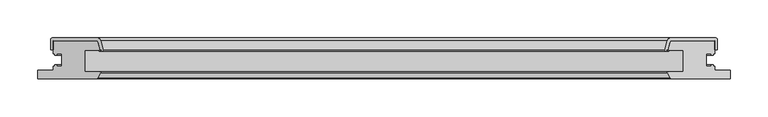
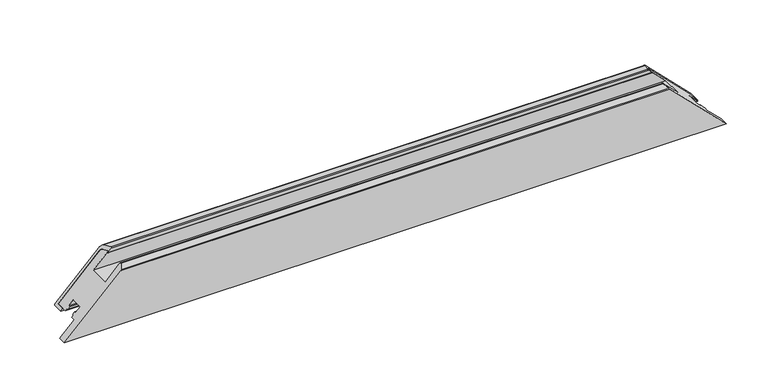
"""IFC4 building model written with IfcOpenShell, lengths in millimetres: proxy geometry, Weiku - Montante - Folha 02.2.01.017 : Weiku - Montante - Folha 02.2.01.017."""

from ifc_helpers import new_model, si_unit, frame, origin, place, context, project, spatial, polyline, ellipse_curve, source, transform, mapped, element, save
from ifc_brep_helpers import plane_surface, cylinder_surface, revolved_surface, advanced_brep


def generic_models_6003d0e4(model_context):
    return source(origin(), model_context, "Body", "AdvancedBrep", [
        advanced_brep(
        [(436.5, 50.0, 20.0), (379.4997332, 50.0, 77.0002668), (-379.4997332, 50.0, 77.0002668), (-436.5, 50.0, 20.0), (376.6019557, 47.7764571, 79.8980443), (-376.6019557, 47.7764571, 79.8980443), (374.0170371, 38.1294095, 82.4829629), (-374.0170371, 38.1294095, 82.4829629), (374.5, 37.5, 82.0), (-374.5, 37.5, 82.0), (375.3560102, 37.5, 81.1439898), (-375.3560102, 37.5, 81.1439898), (375.3560102, 36.5, 81.1439898), (-375.3560102, 36.5, 81.1439898), (370.7425588, 36.5, 85.7574412), (-370.7425588, 36.5, 85.7574412), (369.7766329, 37.758819, 86.7233671), (-369.7766329, 37.758819, 86.7233671), (373.1354501, 50.2940952, 83.3645499), (-373.1354501, 50.2940952, 83.3645499), (377.9650792, 54.0, 78.5349208), (-377.9650792, 54.0, 78.5349208), (437.5, 54.0, 19.0), (-437.5, 54.0, 19.0), (439.5, 52.0, 17.0), (-439.5, 52.0, 17.0), (439.5, 38.5, 17.0), (-439.5, 38.5, 17.0), (436.5, 38.5, 20.0), (-436.5, 38.5, 20.0)],
        [
            (0, 1),
            (1, 2),
            (2, 3),
            (3, 0),
            (1, 4, ellipse_curve(frame((379.4997332, 47.0, 77.0002668), z_axis=(0.707106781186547, 0.0, 0.7071067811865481), x_axis=(0.7071067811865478, 0.0, -0.707106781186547)), 4.2426407, 3.0)),
            (4, 5),
            (5, 2, ellipse_curve(frame((-379.4997332, 47.0, 77.0002668), z_axis=(-0.7071067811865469, 0.0, 0.7071067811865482), x_axis=(0.707106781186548, 0.0, 0.7071067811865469)), 4.2426407, 3.0)),
            (4, 6),
            (6, 7),
            (7, 5),
            (6, 8, ellipse_curve(frame((374.5, 38.0, 82.0), z_axis=(0.707106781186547, 0.0, 0.7071067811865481), x_axis=(0.7071067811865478, 0.0, -0.707106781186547)), 0.7071068, 0.5)),
            (8, 9),
            (9, 7, ellipse_curve(frame((-374.5, 38.0, 82.0), z_axis=(-0.7071067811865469, 0.0, 0.7071067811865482), x_axis=(0.707106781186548, 0.0, 0.7071067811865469)), 0.7071068, 0.5)),
            (8, 10),
            (10, 11),
            (11, 9),
            (10, 12, ellipse_curve(frame((375.3560102, 37.0, 81.1439898), z_axis=(-0.707106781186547, 0.0, -0.7071067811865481), x_axis=(-0.7071067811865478, 0.0, 0.707106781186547)), 0.7071068, 0.5)),
            (12, 13),
            (13, 11, ellipse_curve(frame((-375.3560102, 37.0, 81.1439898), z_axis=(0.7071067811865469, 0.0, -0.7071067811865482), x_axis=(-0.707106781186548, 0.0, -0.7071067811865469)), 0.7071068, 0.5)),
            (12, 14),
            (14, 15),
            (15, 13),
            (14, 16, ellipse_curve(frame((370.7425588, 37.5, 85.7574412), z_axis=(-0.707106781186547, 0.0, -0.7071067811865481), x_axis=(-0.7071067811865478, 0.0, 0.707106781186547)), 1.4142136, 1.0)),
            (16, 17),
            (17, 15, ellipse_curve(frame((-370.7425588, 37.5, 85.7574412), z_axis=(0.7071067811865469, 0.0, -0.7071067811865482), x_axis=(-0.707106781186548, 0.0, -0.7071067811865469)), 1.4142136, 1.0)),
            (16, 18),
            (18, 19),
            (19, 17),
            (18, 20, ellipse_curve(frame((377.9650792, 49.0, 78.5349208), z_axis=(-0.707106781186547, 0.0, -0.7071067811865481), x_axis=(-0.7071067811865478, 0.0, 0.707106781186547)), 7.0710678, 5.0)),
            (20, 21),
            (21, 19, ellipse_curve(frame((-377.9650792, 49.0, 78.5349208), z_axis=(0.7071067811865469, 0.0, -0.7071067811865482), x_axis=(-0.707106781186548, 0.0, -0.7071067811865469)), 7.0710678, 5.0)),
            (20, 22),
            (22, 23),
            (23, 21),
            (22, 24, ellipse_curve(frame((437.5, 52.0, 19.0), z_axis=(-0.707106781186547, 0.0, -0.7071067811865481), x_axis=(-0.7071067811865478, 0.0, 0.707106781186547)), 2.8284271, 2.0)),
            (24, 25),
            (25, 23, ellipse_curve(frame((-437.5, 52.0, 19.0), z_axis=(0.7071067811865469, 0.0, -0.7071067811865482), x_axis=(-0.707106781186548, 0.0, -0.7071067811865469)), 2.8284271, 2.0)),
            (24, 26),
            (26, 27),
            (27, 25),
            (26, 28),
            (28, 29),
            (29, 27),
            (28, 0),
            (3, 29),
        ],
        [
            plane_surface(frame((-476.5, 50.0, 20.0), z_axis=(0.0, -1.0, 0.0), x_axis=(1.0, 0.0, 0.0))),
            revolved_surface(polyline([(382.49973320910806, 50.0, 77.0002668), (-382.49973320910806, 50.0, 77.0002668)]), (-476.5, 47.0, 77.0002668), (1.0, 0.0, 0.0)),
            plane_surface(frame((-476.5, 47.7764571, 79.8980443), z_axis=(0.0, -0.2588190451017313, -0.9659258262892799), x_axis=(1.0, 0.0, 0.0))),
            revolved_surface(polyline([(375.00000001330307, 38.5, 82.0), (-375.0000000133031, 38.5, 82.0)]), (-476.5, 38.0, 82.0), (1.0, 0.0, 0.0)),
            plane_surface(frame((-476.5, 37.5, 82.0), z_axis=(0.0, 1.0, 0.0), x_axis=(1.0, 0.0, 0.0))),
            cylinder_surface(frame((-476.5, 37.0, 81.1439898), z_axis=(-1.0, 0.0, 0.0), x_axis=(0.0, 1.0, 0.0)), 0.5),
            plane_surface(frame((-476.5, 36.5, 81.1439898), z_axis=(0.0, -1.0, 0.0), x_axis=(1.0, 0.0, 0.0))),
            cylinder_surface(frame((-476.5, 37.5, 85.7574412), z_axis=(-1.0, 0.0, 0.0), x_axis=(0.0, 1.0, 0.0)), 1.0),
            plane_surface(frame((-476.5, 37.758819, 86.7233671), z_axis=(0.0, 0.25881904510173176, 0.9659258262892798), x_axis=(1.0, 0.0, 0.0))),
            cylinder_surface(frame((-476.5, 49.0, 78.5349208), z_axis=(-1.0, 0.0, 0.0), x_axis=(0.0, 1.0, 0.0)), 5.0),
            plane_surface(frame((-476.5, 54.0, 78.5349208), z_axis=(0.0, 1.0, 0.0), x_axis=(1.0, 0.0, 0.0))),
            cylinder_surface(frame((-476.5, 52.0, 19.0), z_axis=(-1.0, 0.0, 0.0), x_axis=(0.0, 1.0, 0.0)), 2.0),
            plane_surface(frame((-476.5, 52.0, 17.0), z_axis=(0.0, 0.0, -1.0), x_axis=(1.0, 0.0, 0.0))),
            plane_surface(frame((-476.5, 38.5, 17.0), z_axis=(0.0, -1.0, 0.0), x_axis=(1.0, 0.0, 0.0))),
            plane_surface(frame((-476.5, 38.5, 20.0), z_axis=(0.0, 0.0, 1.0), x_axis=(1.0, 0.0, 0.0))),
            plane_surface(frame((366.5, 0.0, 90.0), z_axis=(0.707106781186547, 0.0, 0.7071067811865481), x_axis=(0.0, 1.0, 0.0))),
            plane_surface(frame((-484.7842712, 0.0, -28.2842712), z_axis=(-0.7071067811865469, 0.0, 0.7071067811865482), x_axis=(0.0, 1.0, 0.0))),
        ],
        [
            (0, [[1, 2, 3, 4]]),
            (1, [[5, 6, 7, -2]]),
            (2, [[8, 9, 10, -6]]),
            (3, [[11, 12, 13, -9]]),
            (4, [[14, 15, 16, -12]]),
            (5, [[17, 18, 19, -15]]),
            (6, [[20, 21, 22, -18]]),
            (7, [[23, 24, 25, -21]]),
            (8, [[26, 27, 28, -24]]),
            (9, [[29, 30, 31, -27]]),
            (10, [[32, 33, 34, -30]]),
            (11, [[35, 36, 37, -33]]),
            (12, [[38, 39, 40, -36]]),
            (13, [[41, 42, 43, -39]]),
            (14, [[44, -4, 45, -42]]),
            (15, [[-1, -44, -41, -38, -35, -32, -29, -26, -23, -20, -17, -14, -11, -8, -5]]),
            (16, [[-3, -7, -10, -13, -16, -19, -22, -25, -28, -31, -34, -37, -40, -43, -45]]),
        ],
    ),
        advanced_brep(
        [(-436.5, 50.0, 20.0), (-379.4997332, 50.0, 77.0002668), (379.4997332, 50.0, 77.0002668), (436.5, 50.0, 20.0), (-456.5, 0.0, 0.0), (456.5, 0.0, 0.0), (378.4872264, 0.0, 78.0127736), (-378.4872264, 0.0, 78.0127736), (-436.5, 33.1, 20.0), (-434.3, 33.1, 22.2), (-434.3, 31.1, 22.2), (-431.5, 31.1, 25.0), (-431.5, 33.1, 25.0), (-425.0, 33.1, 31.5), (-425.0, 16.9, 31.5), (-431.5, 16.9, 25.0), (-431.5, 18.9, 25.0), (-434.3, 18.9, 22.2), (-434.3, 16.9, 22.2), (-436.5, 16.9, 20.0), (-436.5, 11.5, 20.0), (-456.5, 11.5, 0.0), (-377.5932657, 0.5518546, 78.9067343), (-374.0512796, 7.617411, 82.4487204), (-375.2134285, 9.5, 81.2865715), (-395.0, 9.5, 61.5), (-395.0, 37.5, 61.5), (-374.5, 37.5, 82.0), (-374.0170371, 38.1294095, 82.4829629), (-376.6019557, 47.7764571, 79.8980443), (376.6019557, 47.7764571, 79.8980443), (374.0170371, 38.1294095, 82.4829629), (374.5, 37.5, 82.0), (395.0, 37.5, 61.5), (395.0, 9.5, 61.5), (375.2134285, 9.5, 81.2865715), (374.0512796, 7.617411, 82.4487204), (377.5932657, 0.5518546, 78.9067343), (456.5, 11.5, 0.0), (436.5, 11.5, 20.0), (436.5, 16.9, 20.0), (434.3, 16.9, 22.2), (434.3, 18.9, 22.2), (431.5, 18.9, 25.0), (431.5, 16.9, 25.0), (425.0, 16.9, 31.5), (425.0, 33.1, 31.5), (431.5, 33.1, 25.0), (431.5, 31.1, 25.0), (434.3, 31.1, 22.2), (434.3, 33.1, 22.2), (436.5, 33.1, 20.0)],
        [
            (0, 1),
            (1, 2),
            (2, 3),
            (3, 0),
            (4, 5),
            (5, 6),
            (6, 7),
            (7, 4),
            (0, 8),
            (8, 9),
            (9, 10),
            (10, 11),
            (11, 12),
            (12, 13),
            (13, 14),
            (14, 15),
            (15, 16),
            (16, 17),
            (17, 18),
            (18, 19),
            (19, 20),
            (20, 21),
            (21, 4),
            (7, 22, ellipse_curve(frame((-378.4872264, 1.0, 78.0127736), z_axis=(-0.7071067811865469, 0.0, 0.7071067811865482), x_axis=(-0.707106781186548, 0.0, -0.7071067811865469)), 1.4142136, 1.0)),
            (22, 23),
            (23, 24, ellipse_curve(frame((-375.2134285, 8.2, 81.2865715), z_axis=(-0.7071067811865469, 0.0, 0.7071067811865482), x_axis=(-0.707106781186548, 0.0, -0.7071067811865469)), 1.8384776, 1.3)),
            (24, 25),
            (25, 26),
            (26, 27),
            (27, 28, ellipse_curve(frame((-374.5, 38.0, 82.0), z_axis=(-0.7071067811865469, 0.0, 0.7071067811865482), x_axis=(-0.707106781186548, 0.0, -0.7071067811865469)), 0.7071068, 0.5)),
            (28, 29),
            (29, 1, ellipse_curve(frame((-379.4997332, 47.0, 77.0002668), z_axis=(-0.7071067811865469, 0.0, 0.7071067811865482), x_axis=(-0.707106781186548, 0.0, -0.7071067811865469)), 4.2426407, 3.0)),
            (2, 30, ellipse_curve(frame((379.4997332, 47.0, 77.0002668), z_axis=(0.707106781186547, 0.0, 0.7071067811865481), x_axis=(-0.7071067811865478, 0.0, 0.707106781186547)), 4.2426407, 3.0)),
            (30, 31),
            (31, 32, ellipse_curve(frame((374.5, 38.0, 82.0), z_axis=(0.707106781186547, 0.0, 0.7071067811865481), x_axis=(-0.7071067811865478, 0.0, 0.707106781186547)), 0.7071068, 0.5)),
            (32, 33),
            (33, 34),
            (34, 35),
            (35, 36, ellipse_curve(frame((375.2134285, 8.2, 81.2865715), z_axis=(0.707106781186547, 0.0, 0.7071067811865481), x_axis=(-0.7071067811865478, 0.0, 0.707106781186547)), 1.8384776, 1.3)),
            (36, 37),
            (37, 6, ellipse_curve(frame((378.4872264, 1.0, 78.0127736), z_axis=(0.707106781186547, 0.0, 0.7071067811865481), x_axis=(-0.7071067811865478, 0.0, 0.707106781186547)), 1.4142136, 1.0)),
            (5, 38),
            (38, 39),
            (39, 40),
            (40, 41),
            (41, 42),
            (42, 43),
            (43, 44),
            (44, 45),
            (45, 46),
            (46, 47),
            (47, 48),
            (48, 49),
            (49, 50),
            (50, 51),
            (51, 3),
            (37, 22),
            (36, 23),
            (35, 24),
            (34, 25),
            (33, 26),
            (32, 27),
            (31, 28),
            (30, 29),
            (51, 8),
            (50, 9),
            (49, 10),
            (48, 11),
            (47, 12),
            (46, 13),
            (45, 14),
            (44, 15),
            (43, 16),
            (42, 17),
            (41, 18),
            (40, 19),
            (39, 20),
            (38, 21),
        ],
        [
            plane_surface(frame((-456.5, 50.0, 77.0002668), z_axis=(0.0, 1.0, 0.0), x_axis=(1.0, 0.0, 0.0))),
            plane_surface(frame((-456.5, 0.0, 0.0), z_axis=(0.0, -1.0, 0.0), x_axis=(1.0, 0.0, 0.0))),
            plane_surface(frame((-484.7842712, 0.0, -28.2842712), z_axis=(-0.7071067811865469, 0.0, 0.7071067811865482), x_axis=(0.0, 1.0, 0.0))),
            plane_surface(frame((366.5, 0.0, 90.0), z_axis=(0.707106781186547, 0.0, 0.7071067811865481), x_axis=(0.0, 1.0, 0.0))),
            cylinder_surface(frame((-456.5, 1.0, 78.0127736), z_axis=(-1.0, 0.0, 0.0), x_axis=(0.0, 1.0, 0.0)), 1.0),
            plane_surface(frame((-456.5, 0.5518546, 78.9067343), z_axis=(0.0, -0.4481453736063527, 0.8939606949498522), x_axis=(1.0, 0.0, 0.0))),
            cylinder_surface(frame((-456.5, 8.2, 81.2865715), z_axis=(-1.0, 0.0, 0.0), x_axis=(0.0, 1.0, 0.0)), 1.3),
            plane_surface(frame((-456.5, 9.5, 81.2865715), z_axis=(0.0, 1.0, 0.0), x_axis=(1.0, 0.0, 0.0))),
            plane_surface(frame((-456.5, 9.5, 61.5), z_axis=(0.0, 0.0, 1.0), x_axis=(1.0, 0.0, 0.0))),
            plane_surface(frame((-456.5, 37.5, 61.5), z_axis=(0.0, -1.0, 0.0), x_axis=(1.0, 0.0, 0.0))),
            cylinder_surface(frame((-456.5, 38.0, 82.0), z_axis=(-1.0, 0.0, 0.0), x_axis=(0.0, 1.0, 0.0)), 0.5),
            plane_surface(frame((-456.5, 38.1294095, 82.4829629), z_axis=(0.0, 0.2588190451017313, 0.9659258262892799), x_axis=(1.0, 0.0, 0.0))),
            cylinder_surface(frame((-456.5, 47.0, 77.0002668), z_axis=(-1.0, 0.0, 0.0), x_axis=(0.0, 1.0, 0.0)), 3.0),
            plane_surface(frame((-456.5, 50.0, 20.0), z_axis=(0.0, 0.0, -1.0), x_axis=(1.0, 0.0, 0.0))),
            plane_surface(frame((-456.5, 33.1, 20.0), z_axis=(0.0, -1.0, 0.0), x_axis=(1.0, 0.0, 0.0))),
            plane_surface(frame((-456.5, 33.1, 22.2), z_axis=(0.0, 0.0, -1.0), x_axis=(1.0, 0.0, 0.0))),
            plane_surface(frame((-456.5, 31.1, 22.2), z_axis=(0.0, -1.0, 0.0), x_axis=(1.0, 0.0, 0.0))),
            plane_surface(frame((-456.5, 31.1, 25.0), z_axis=(0.0, 0.0, 1.0), x_axis=(1.0, 0.0, 0.0))),
            plane_surface(frame((-456.5, 33.1, 25.0), z_axis=(0.0, -1.0, 0.0), x_axis=(1.0, 0.0, 0.0))),
            plane_surface(frame((-456.5, 33.1, 31.5), z_axis=(0.0, 0.0, -1.0), x_axis=(1.0, 0.0, 0.0))),
            plane_surface(frame((-456.5, 16.9, 31.5), z_axis=(0.0, 1.0, 0.0), x_axis=(1.0, 0.0, 0.0))),
            plane_surface(frame((-456.5, 16.9, 25.0), z_axis=(0.0, 0.0, 1.0), x_axis=(1.0, 0.0, 0.0))),
            plane_surface(frame((-456.5, 18.9, 25.0), z_axis=(0.0, 1.0, 0.0), x_axis=(1.0, 0.0, 0.0))),
            plane_surface(frame((-456.5, 18.9, 22.2), z_axis=(0.0, 0.0, -1.0), x_axis=(1.0, 0.0, 0.0))),
            plane_surface(frame((-456.5, 16.9, 22.2), z_axis=(0.0, 1.0, 0.0), x_axis=(1.0, 0.0, 0.0))),
            plane_surface(frame((-456.5, 16.9, 20.0), z_axis=(0.0, 0.0, -1.0), x_axis=(1.0, 0.0, 0.0))),
            plane_surface(frame((-456.5, 11.5, 20.0), z_axis=(0.0, 1.0, 0.0), x_axis=(1.0, 0.0, 0.0))),
            plane_surface(frame((-456.5, 11.5, 0.0), z_axis=(0.0, 0.0, -1.0), x_axis=(1.0, 0.0, 0.0))),
        ],
        [
            (0, [[1, 2, 3, 4]]),
            (1, [[5, 6, 7, 8]]),
            (2, [[-1, 9, 10, 11, 12, 13, 14, 15, 16, 17, 18, 19, 20, 21, 22, 23, -8, 24, 25, 26, 27, 28, 29, 30, 31, 32]]),
            (3, [[-3, 33, 34, 35, 36, 37, 38, 39, 40, 41, -6, 42, 43, 44, 45, 46, 47, 48, 49, 50, 51, 52, 53, 54, 55, 56]]),
            (4, [[-24, -7, -41, 57]]),
            (5, [[-25, -57, -40, 58]]),
            (6, [[-26, -58, -39, 59]]),
            (7, [[-27, -59, -38, 60]]),
            (8, [[-28, -60, -37, 61]]),
            (9, [[-29, -61, -36, 62]]),
            (10, [[-30, -62, -35, 63]]),
            (11, [[-31, -63, -34, 64]]),
            (12, [[-32, -64, -33, -2]]),
            (13, [[-9, -4, -56, 65]]),
            (14, [[-10, -65, -55, 66]]),
            (15, [[-11, -66, -54, 67]]),
            (16, [[-12, -67, -53, 68]]),
            (17, [[-13, -68, -52, 69]]),
            (18, [[-14, -69, -51, 70]]),
            (19, [[-15, -70, -50, 71]]),
            (20, [[-16, -71, -49, 72]]),
            (21, [[-17, -72, -48, 73]]),
            (22, [[-18, -73, -47, 74]]),
            (23, [[-19, -74, -46, 75]]),
            (24, [[-20, -75, -45, 76]]),
            (25, [[-21, -76, -44, 77]]),
            (26, [[78, -22, -77, -43]]),
            (27, [[-5, -23, -78, -42]]),
        ],
    ),
    ])


if __name__ == "__main__":
    model = new_model("IFC4")
    model_context = context("Model", 3, world=origin())
    ifc_project = project(units=[si_unit("LENGTHUNIT", "METRE", prefix="MILLI")], contexts=[model_context])
    site = spatial("IfcSite", under=ifc_project)
    building = spatial("IfcBuilding", under=site)
    placement = place(None, origin())
    generic_models_shape = generic_models_6003d0e4(model_context)
    element("IfcBuildingElementProxy", 1, Name="Weiku - Montante - Folha 02.2.01.017 : Weiku - Montante - Folha 02.2.01.017", ObjectType="Weiku - Montante - Folha 02.2.01.017 : Weiku - Montante - Folha 02.2.01.017", at=placement, inside=building, context=model_context, shape_type="MappedRepresentation", body=[
        mapped(generic_models_shape, transform((0.0, 0.0, 0.0), x_axis=(1.0, 0.0, 0.0), y_axis=(0.0, 1.0, 0.0), z_axis=(0.0, 0.0, 1.0))),
    ])
    save(model, "model.ifc")
